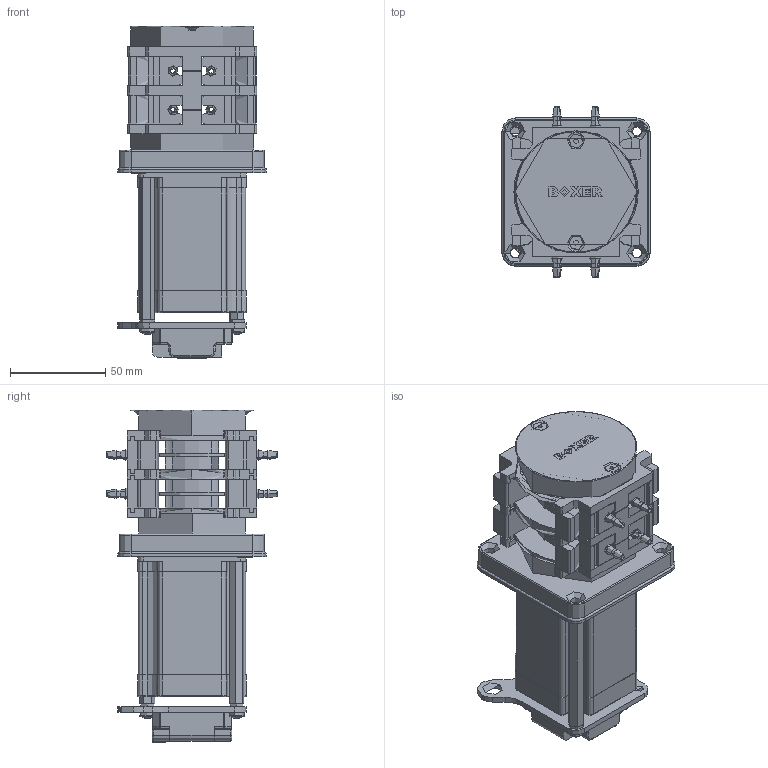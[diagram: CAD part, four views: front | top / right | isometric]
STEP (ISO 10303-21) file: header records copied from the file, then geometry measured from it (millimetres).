
FILE_DESCRIPTION (( 'STEP AP203' ), '1' );
FILE_NAME ('6342.101.STEP', '2018-11-17T18:12:43', ( '' ), ( '' ), 'SwSTEP 2.0', 'SolidWorks 2015', '' );
FILE_SCHEMA (( 'CONFIG_CONTROL_DESIGN' ));
Length unit declared in the file: millimetre
Products named in the file (1): 6342.101
Bounding box: 78.05 x 89.5 x 174.45 mm (x, y, z)
Topology: 0 solids, 67 shells, 1023 faces, 3626 edges, 2573 vertices
Faces by surface type: plane 540, cylinder 318, cone 78, torus 54, bspline 21, sphere 12
Full cylindrical faces by diameter (mm): 1.6 x2, 2.5 x1, 4.7 x1
Entity records: 40360 total; most frequent: CARTESIAN_POINT 8815, DIRECTION 6791, ORIENTED_EDGE 5870, EDGE_CURVE 3639, VERTEX_POINT 2577, LINE 2297, VECTOR 2297, AXIS2_PLACEMENT_3D 2247
